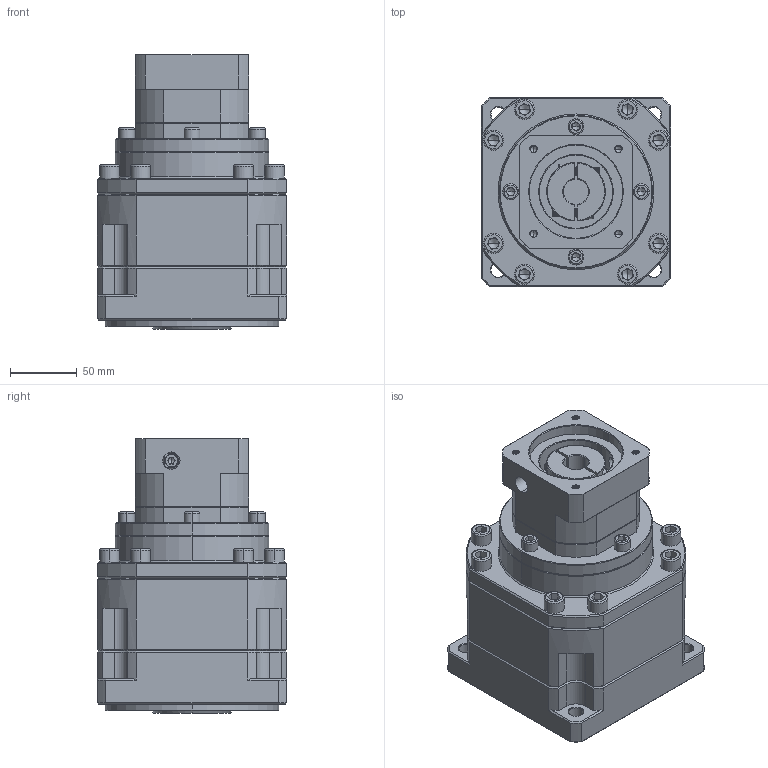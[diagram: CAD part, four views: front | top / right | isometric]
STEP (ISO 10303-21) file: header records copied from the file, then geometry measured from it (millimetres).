
FILE_DESCRIPTION (( 'STEP AP214' ), '1' );
FILE_NAME ('ZB142A-K35-L3-P2-19-70-90-M6.step', '2023-09-02T06:23:23', ( '' ), ( '' ), 'SwSTEP 2.0', 'SolidWorks 2016', '' );
FILE_SCHEMA (( 'AUTOMOTIVE_DESIGN' ));
Length unit declared in the file: millimetre
Products named in the file (1): ZB142A-K35-L3-P2-19-70-90-M6
Bounding box: 142 x 142 x 206.2 mm (x, y, z)
Volume: 2614907.9 mm3; surface area: 193635.2 mm2
Topology: 5 solids, 5 shells, 2451 faces, 6424 edges, 4090 vertices
Faces by surface type: plane 1219, bspline 449, cylinder 429, cone 354
Entity records: 127068 total; most frequent: CARTESIAN_POINT 43301, ORIENTED_EDGE 12744, DIRECTION 10190, EDGE_CURVE 6372, LINE 4140, VECTOR 4140, VERTEX_POINT 4090, AXIS2_PLACEMENT_3D 3025
